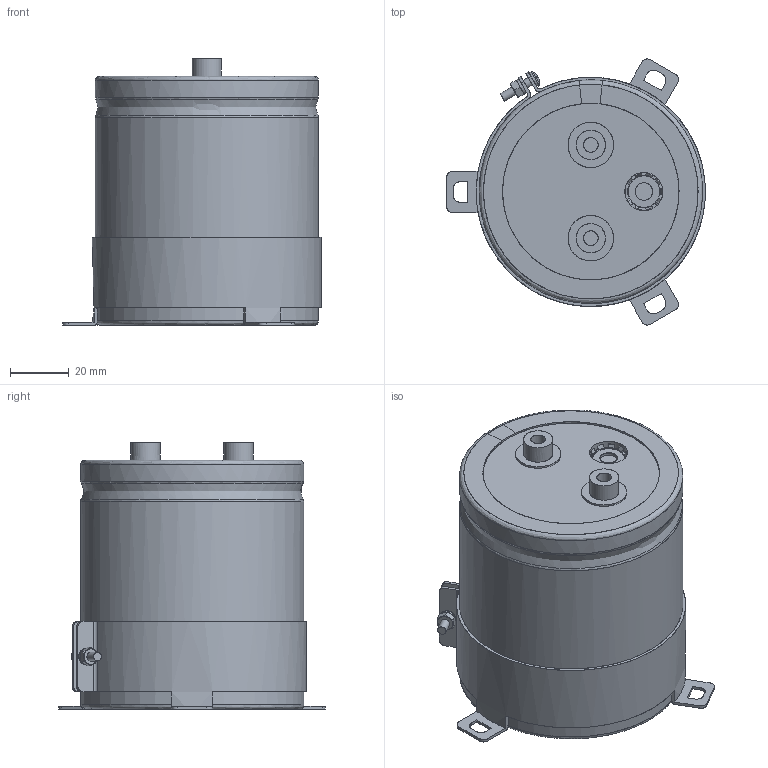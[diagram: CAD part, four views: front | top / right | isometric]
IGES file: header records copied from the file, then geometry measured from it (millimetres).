
Start section: JAMA-IS VERSION  1.0
Bounding box: 88.3 x 90.75 x 91 mm (x, y, z)
Surface area: 91436.2 mm2 (no closed solid volume)
Topology: 0 solids, 0 shells, 259 faces, 4448 edges, 4417 vertices
Faces by surface type: bspline 259
